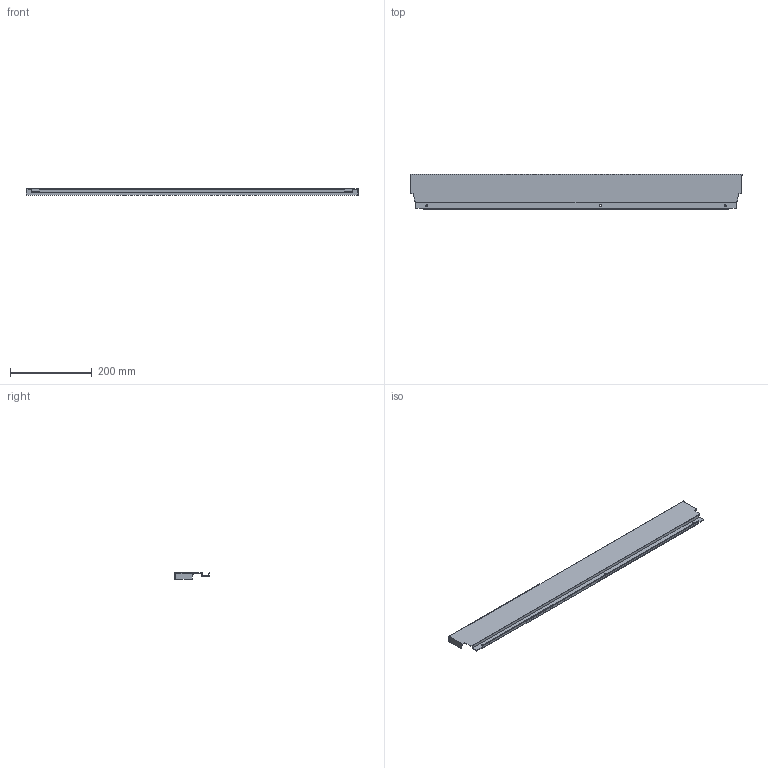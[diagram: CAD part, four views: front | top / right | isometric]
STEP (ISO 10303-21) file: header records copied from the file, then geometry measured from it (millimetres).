
FILE_DESCRIPTION (( 'STEP AP214' ), '1' );
FILE_NAME ('_DWD_XP Stahlrückwand_H86_KAB900_S19.step', '2010-07-08T12:10:39', ( 'grass' ), ( '' ), 'SwSTEP 2.0', 'SolidWorks 2010', '' );
FILE_SCHEMA (( 'AUTOMOTIVE_DESIGN' ));
Length unit declared in the file: millimetre
Products named in the file (1): _DWD_XP Stahlrückwand_H86_KAB900_S19
Bounding box: 813 x 85.79 x 16 mm (x, y, z)
Volume: 87120.8 mm3; surface area: 189131.7 mm2
Topology: 1 solids, 1 shells, 50 faces, 144 edges, 96 vertices
Faces by surface type: plane 44, cylinder 6
Entity records: 1666 total; most frequent: CARTESIAN_POINT 291, ORIENTED_EDGE 288, DIRECTION 258, EDGE_CURVE 144, LINE 132, VECTOR 132, VERTEX_POINT 96, AXIS2_PLACEMENT_3D 63
